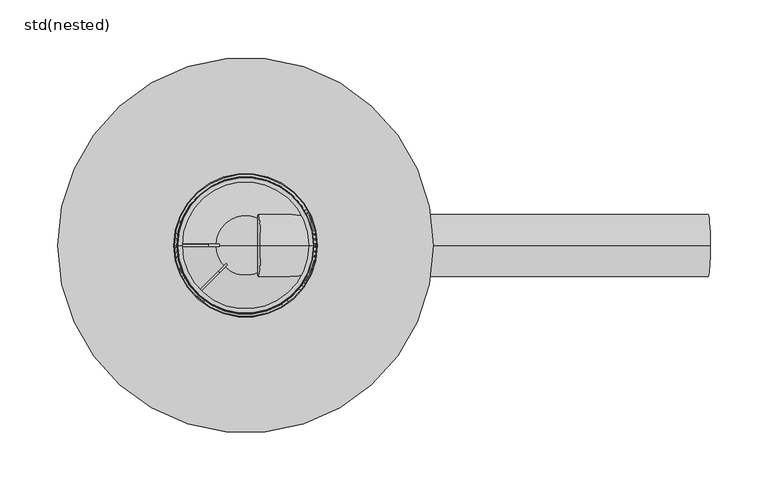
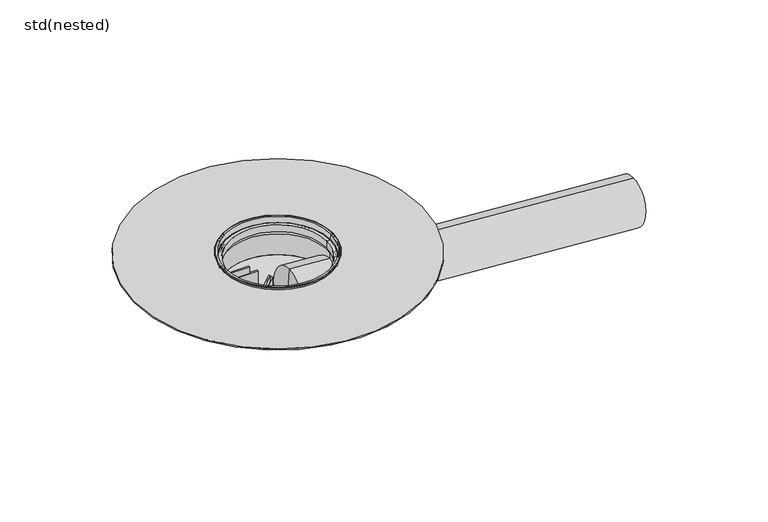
"""IFC4 building model written with IfcOpenShell, lengths in millimetres: sanitary terminal geometry, ZZZ_do not use_PF_ST_UN_balcony gully with adhesive flange and side inlet_ACO : std(nested)."""

from ifc_helpers import new_model, si_unit, point, frame, origin, origin_2d, place, context, project, spatial, polyline, circle_curve, trimmed, segment, composite_curve, outline, extrude, source, transform, mapped, element, save
from ifc_brep_helpers import plane_surface, cylinder_surface, revolved_surface, advanced_brep


def std_nested_a1d73519(model_context):
    return source(origin(), model_context, "Body", "SolidModel", [
        advanced_brep(
        [(12.8334452, 0.0, -25.8607459), (9.0665956, 0.0, -79.7292046), (10.9500204, 0.0, -52.7949752), (401.8834248, 0.0, -53.0657706), (398.1165752, 0.0, -106.9342294), (400.0, 0.0, -80.0)],
        [
            (0, 1, circle_curve(frame((10.9500204, 0.0, -52.7949752), z_axis=(-0.9975640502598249, 0.0, 0.0697564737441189), x_axis=(-0.06975647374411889, 0.0, -0.9975640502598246)), 27.0)),
            (1, 2),
            (2, 0),
            (1, 0, circle_curve(frame((10.9500204, 0.0, -52.7949752), z_axis=(-0.9975640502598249, 0.0, 0.0697564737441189), x_axis=(-0.06975647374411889, 0.0, -0.9975640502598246)), 27.0)),
            (3, 4, circle_curve(frame((400.0, 0.0, -80.0), z_axis=(-0.9975640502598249, 0.0, 0.0697564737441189), x_axis=(-0.06975647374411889, 0.0, -0.9975640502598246)), 27.0)),
            (4, 1),
            (0, 3),
            (4, 3, circle_curve(frame((400.0, 0.0, -80.0), z_axis=(-0.9975640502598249, 0.0, 0.0697564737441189), x_axis=(-0.06975647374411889, 0.0, -0.9975640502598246)), 27.0)),
            (5, 4),
            (3, 5),
        ],
        [
            plane_surface(frame((10.9500204, 0.0, -52.7949752), z_axis=(-0.9975640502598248, 0.0, 0.0697564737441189), x_axis=(-0.0697564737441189, 0.0, -0.9975640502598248))),
            cylinder_surface(frame((10.9500204, 0.0, -52.7949752), z_axis=(0.9975640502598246, 0.0, -0.06975647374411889), x_axis=(-0.06975647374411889, 0.0, -0.9975640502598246)), 27.0),
            plane_surface(frame((400.0, 0.0, -80.0), z_axis=(0.9975640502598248, 0.0, -0.0697564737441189), x_axis=(-0.0697564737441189, 0.0, -0.9975640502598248))),
        ],
        [
            (0, [[1, 2, 3]]),
            (0, [[4, -3, -2]]),
            (1, [[5, 6, -1, 7]]),
            (1, [[8, -7, -4, -6]]),
            (2, [[9, -5, 10]]),
            (2, [[-10, -8, -9]]),
        ],
    ),
        advanced_brep(
        [(59.5005382, 0.0, 0.0), (-59.5005382, 0.0, 0.0), (-59.0, 0.0, -7.0), (59.0, 0.0, -7.0), (61.5056448, 0.0, 0.0), (-61.5056448, 0.0, 0.0), (61.0051065, 0.0, -7.0), (-61.0051065, 0.0, -7.0), (61.0051065, 0.0, -9.0), (-61.0051065, 0.0, -9.0), (57.0, 0.0, -9.0), (-57.0, 0.0, -9.0), (57.0, 0.0, -13.0), (-57.0, 0.0, -13.0), (61.0051065, 0.0, -13.0), (-61.0051065, 0.0, -13.0), (61.0051065, 0.0, -45.0), (-61.0051065, 0.0, -45.0), (37.0, 0.0, -89.0), (-37.0, 0.0, -89.0), (59.0, 0.0, -45.0), (-59.0, 0.0, -45.0), (-36.0909091, 0.0, -87.0), (36.0909091, 0.0, -87.0), (59.0, 0.0, -15.0), (-58.9914973, 1.0016193, -15.0), (-58.9914973, 1.0016193, -40.0), (-59.0, 0.0, -40.0), (-58.9914973, -1.0016193, -40.0), (-58.9914973, -1.0016193, -15.0), (-42.2811502, -41.1497793, -15.0), (-42.2811502, -41.1497793, -40.0), (-41.1497793, -42.2811502, -40.0), (-41.1497793, -42.2811502, -15.0), (55.0, 0.0, -15.0), (-54.9908789, 1.0016193, -15.0), (-38.3210732, -39.4524441, -15.0), (-54.9908789, -1.0016193, -15.0), (-39.4524441, -38.3210732, -15.0), (55.0, 0.0, -7.0), (-55.0, 0.0, -7.0), (-55.0, 0.0, -15.0), (-58.4914247, 1.0016193, -40.0), (-58.5, 0.0, -40.0), (-58.4914247, -1.0016193, -40.0), (-41.927564, -40.7961932, -40.0), (-40.7961932, -41.927564, -40.0), (-23.0, -1.0016193, -15.0), (-23.0, 1.0016193, -15.0), (-15.6977705, -16.8291414, -15.0), (-16.8291414, -15.6977705, -15.0), (-23.0, 1.0016193, -30.0), (-58.4914247, 1.0016193, -30.0), (-58.4914247, -1.0016193, -30.0), (-23.0, -1.0016193, -30.0), (-23.0, 0.0, -30.0), (-16.8291414, -15.6977705, -30.0), (-41.927564, -40.7961932, -30.0), (-40.7961932, -41.927564, -30.0), (-15.6977705, -16.8291414, -30.0), (0.0, 0.0, -89.0), (0.0, 0.0, -87.0), (-58.5, 0.0, -30.0)],
        [
            (0, 1, circle_curve(frame((0.0, 0.0, 0.0), z_axis=(0.0, 0.0, 1.0), x_axis=(-1.0, 0.0, 0.0)), 59.5005382)),
            (1, 2),
            (2, 3, circle_curve(frame((0.0, 0.0, -7.0), z_axis=(0.0, 0.0, -1.0), x_axis=(-1.0, 0.0, 0.0)), 59.0)),
            (3, 0),
            (1, 0, circle_curve(frame((0.0, 0.0, 0.0), z_axis=(0.0, 0.0, 1.0), x_axis=(-1.0, 0.0, 0.0)), 59.5005382)),
            (3, 2, circle_curve(frame((0.0, 0.0, -7.0), z_axis=(0.0, 0.0, -1.0), x_axis=(-1.0, 0.0, 0.0)), 59.0)),
            (0, 4),
            (4, 5, circle_curve(frame((0.0, 0.0, 0.0), z_axis=(0.0, 0.0, 1.0), x_axis=(-1.0, 0.0, 0.0)), 61.5056448)),
            (5, 1),
            (5, 4, circle_curve(frame((0.0, 0.0, 0.0), z_axis=(0.0, 0.0, 1.0), x_axis=(-1.0, 0.0, 0.0)), 61.5056448)),
            (4, 6),
            (6, 7, circle_curve(frame((0.0, 0.0, -7.0), z_axis=(0.0, 0.0, 1.0), x_axis=(-1.0, 0.0, 0.0)), 61.0051065)),
            (7, 5),
            (7, 6, circle_curve(frame((0.0, 0.0, -7.0), z_axis=(0.0, 0.0, 1.0), x_axis=(-1.0, 0.0, 0.0)), 61.0051065)),
            (6, 8),
            (8, 9, circle_curve(frame((0.0, 0.0, -9.0), z_axis=(0.0, 0.0, 1.0), x_axis=(-1.0, 0.0, 0.0)), 61.0051065)),
            (9, 7),
            (9, 8, circle_curve(frame((0.0, 0.0, -9.0), z_axis=(0.0, 0.0, 1.0), x_axis=(-1.0, 0.0, 0.0)), 61.0051065)),
            (8, 10),
            (10, 11, circle_curve(frame((0.0, 0.0, -9.0), z_axis=(0.0, 0.0, 1.0), x_axis=(-1.0, 0.0, 0.0)), 57.0)),
            (11, 9),
            (11, 10, circle_curve(frame((0.0, 0.0, -9.0), z_axis=(0.0, 0.0, 1.0), x_axis=(-1.0, 0.0, 0.0)), 57.0)),
            (10, 12),
            (12, 13, circle_curve(frame((0.0, 0.0, -13.0), z_axis=(0.0, 0.0, 1.0), x_axis=(-1.0, 0.0, 0.0)), 57.0)),
            (13, 11),
            (13, 12, circle_curve(frame((0.0, 0.0, -13.0), z_axis=(0.0, 0.0, 1.0), x_axis=(-1.0, 0.0, 0.0)), 57.0)),
            (12, 14),
            (14, 15, circle_curve(frame((0.0, 0.0, -13.0), z_axis=(0.0, 0.0, 1.0), x_axis=(-1.0, 0.0, 0.0)), 61.0051065)),
            (15, 13),
            (15, 14, circle_curve(frame((0.0, 0.0, -13.0), z_axis=(0.0, 0.0, 1.0), x_axis=(-1.0, 0.0, 0.0)), 61.0051065)),
            (14, 16),
            (16, 17, circle_curve(frame((0.0, 0.0, -45.0), z_axis=(0.0, 0.0, 1.0), x_axis=(-1.0, 0.0, 0.0)), 61.0051065)),
            (17, 15),
            (17, 16, circle_curve(frame((0.0, 0.0, -45.0), z_axis=(0.0, 0.0, 1.0), x_axis=(-1.0, 0.0, 0.0)), 61.0051065)),
            (16, 18),
            (18, 19, circle_curve(frame((0.0, 0.0, -89.0), z_axis=(0.0, 0.0, 1.0), x_axis=(-1.0, 0.0, 0.0)), 37.0)),
            (19, 17),
            (19, 18, circle_curve(frame((0.0, 0.0, -89.0), z_axis=(0.0, 0.0, 1.0), x_axis=(-1.0, 0.0, 0.0)), 37.0)),
            (20, 21, circle_curve(frame((0.0, 0.0, -45.0), z_axis=(0.0, 0.0, 1.0), x_axis=(-1.0, 0.0, 0.0)), 59.0)),
            (21, 22),
            (22, 23, circle_curve(frame((0.0, 0.0, -87.0), z_axis=(0.0, 0.0, -1.0), x_axis=(-1.0, 0.0, 0.0)), 36.0909091)),
            (23, 20),
            (21, 20, circle_curve(frame((0.0, 0.0, -45.0), z_axis=(0.0, 0.0, 1.0), x_axis=(-1.0, 0.0, 0.0)), 59.0)),
            (23, 22, circle_curve(frame((0.0, 0.0, -87.0), z_axis=(0.0, 0.0, -1.0), x_axis=(-1.0, 0.0, 0.0)), 36.0909091)),
            (20, 24),
            (24, 25, circle_curve(frame((0.0, 0.0, -15.0), z_axis=(0.0, 0.0, 1.0), x_axis=(-1.0, 0.0, 0.0)), 59.0)),
            (25, 26),
            (26, 27, circle_curve(frame((0.0, 0.0, -40.0), z_axis=(0.0, 0.0, 1.0), x_axis=(-1.0, 0.0, 0.0)), 59.0)),
            (27, 21),
            (27, 28, circle_curve(frame((0.0, 0.0, -40.0), z_axis=(0.0, 0.0, 1.0), x_axis=(-1.0, 0.0, 0.0)), 59.0)),
            (28, 29),
            (29, 30, circle_curve(frame((0.0, 0.0, -15.0), z_axis=(0.0, 0.0, 1.0), x_axis=(-1.0, 0.0, 0.0)), 59.0)),
            (30, 31),
            (31, 32, circle_curve(frame((0.0, 0.0, -40.0), z_axis=(0.0, 0.0, 1.0), x_axis=(-1.0, 0.0, 0.0)), 59.0)),
            (32, 33),
            (33, 24, circle_curve(frame((0.0, 0.0, -15.0), z_axis=(0.0, 0.0, 1.0), x_axis=(-1.0, 0.0, 0.0)), 59.0)),
            (24, 34),
            (34, 35, circle_curve(frame((0.0, 0.0, -15.0), z_axis=(0.0, 0.0, 1.0), x_axis=(-1.0, 0.0, 0.0)), 55.0)),
            (35, 25),
            (33, 36),
            (36, 34, circle_curve(frame((0.0, 0.0, -15.0), z_axis=(0.0, 0.0, 1.0), x_axis=(-1.0, 0.0, 0.0)), 55.0)),
            (29, 37),
            (37, 38, circle_curve(frame((0.0, 0.0, -15.0), z_axis=(0.0, 0.0, 1.0), x_axis=(-1.0, 0.0, 0.0)), 55.0)),
            (38, 30),
            (39, 40, circle_curve(frame((0.0, 0.0, -7.0), z_axis=(0.0, 0.0, 1.0), x_axis=(-1.0, 0.0, 0.0)), 55.0)),
            (40, 41),
            (41, 35, circle_curve(frame((0.0, 0.0, -15.0), z_axis=(0.0, 0.0, -1.0), x_axis=(-1.0, 0.0, 0.0)), 55.0)),
            (34, 39),
            (40, 39, circle_curve(frame((0.0, 0.0, -7.0), z_axis=(0.0, 0.0, 1.0), x_axis=(-1.0, 0.0, 0.0)), 55.0)),
            (36, 38, circle_curve(frame((0.0, 0.0, -15.0), z_axis=(0.0, 0.0, -1.0), x_axis=(-1.0, 0.0, 0.0)), 55.0)),
            (37, 41, circle_curve(frame((0.0, 0.0, -15.0), z_axis=(0.0, 0.0, -1.0), x_axis=(-1.0, 0.0, 0.0)), 55.0)),
            (2, 40),
            (39, 3),
            (26, 42),
            (42, 43, circle_curve(frame((0.0, 0.0, -40.0), z_axis=(0.0, 0.0, 1.0), x_axis=(1.0, 0.0, 0.0)), 58.5)),
            (43, 44, circle_curve(frame((0.0, 0.0, -40.0), z_axis=(0.0, 0.0, 1.0), x_axis=(1.0, 0.0, 0.0)), 58.5)),
            (44, 28),
            (31, 45),
            (45, 46, circle_curve(frame((0.0, 0.0, -40.0), z_axis=(0.0, 0.0, 1.0), x_axis=(1.0, 0.0, 0.0)), 58.5)),
            (46, 32),
            (47, 48),
            (48, 35),
            (37, 47),
            (49, 50),
            (50, 38),
            (36, 49),
            (48, 51),
            (51, 52),
            (52, 42),
            (44, 53),
            (53, 54),
            (54, 47),
            (54, 55),
            (55, 51),
            (50, 56),
            (56, 57),
            (57, 45),
            (46, 58),
            (58, 59),
            (59, 49),
            (59, 56),
            (18, 60),
            (60, 19),
            (22, 61),
            (61, 23),
            (62, 43),
            (52, 62, circle_curve(frame((0.0, 0.0, -30.0), z_axis=(0.0, 0.0, 1.0), x_axis=(1.0, 0.0, 0.0)), 58.5)),
            (62, 53, circle_curve(frame((0.0, 0.0, -30.0), z_axis=(0.0, 0.0, 1.0), x_axis=(1.0, 0.0, 0.0)), 58.5)),
            (57, 58, circle_curve(frame((0.0, 0.0, -30.0), z_axis=(0.0, 0.0, 1.0), x_axis=(1.0, 0.0, 0.0)), 58.5)),
            (55, 62),
        ],
        [
            revolved_surface(polyline([(-59.0, 0.0, -7.0), (-59.5005382, 0.0, 0.0)]), (0.0, 0.0, 0.0), (0.0, 0.0, -1.0)),
            plane_surface(frame((0.0, 0.0, 0.0), z_axis=(0.0, 0.0, 1.0), x_axis=(-1.0, 0.0, 0.0))),
            revolved_surface(polyline([(-61.5056448, 0.0, 0.0), (-61.0051065, 0.0, -7.0)]), (0.0, 0.0, 0.0), (0.0, 0.0, -1.0)),
            cylinder_surface(frame((0.0, 0.0, 0.0), z_axis=(0.0, 0.0, -1.0), x_axis=(-1.0, 0.0, 0.0)), 61.0051065),
            plane_surface(frame((0.0, 0.0, -9.0), z_axis=(0.0, 0.0, -1.0), x_axis=(-1.0, 0.0, 0.0))),
            cylinder_surface(frame((0.0, 0.0, 0.0), z_axis=(0.0, 0.0, -1.0), x_axis=(-1.0, 0.0, 0.0)), 57.0),
            plane_surface(frame((0.0, 0.0, -13.0), z_axis=(0.0, 0.0, 1.0), x_axis=(-1.0, 0.0, 0.0))),
            revolved_surface(polyline([(-61.0051065, 0.0, -45.0), (-37.0, 0.0, -89.0)]), (0.0, 0.0, 0.0), (0.0, 0.0, -1.0)),
            revolved_surface(polyline([(-36.0909091, 0.0, -87.0), (-59.0, 0.0, -45.0)]), (0.0, 0.0, 0.0), (0.0, 0.0, -1.0)),
            revolved_surface(polyline([(-59.0, 0.0, -45.0), (-59.0, 0.0, -15.0)]), (0.0, 0.0, 0.0), (0.0, 0.0, -1.0)),
            plane_surface(frame((0.0, 0.0, -15.0), z_axis=(0.0, 0.0, -1.0), x_axis=(-1.0, 0.0, 0.0))),
            revolved_surface(polyline([(-55.0, 0.0, -15.0), (-55.0, 0.0, -7.0)]), (0.0, 0.0, 0.0), (0.0, 0.0, -1.0)),
            plane_surface(frame((0.0, 0.0, -7.0), z_axis=(0.0, 0.0, 1.0), x_axis=(-1.0, 0.0, 0.0))),
            plane_surface(frame((-59.4942457, 1.0016193, -40.0), z_axis=(0.0, 0.0, -1.0), x_axis=(1.0, 0.0, 0.0))),
            plane_surface(frame((-59.4942457, 1.0016193, -15.0), z_axis=(0.0, 0.0, 1.0), x_axis=(-1.0, 0.0, 0.0))),
            plane_surface(frame((-23.0, 1.0016193, -15.0), z_axis=(0.0, 1.0, 0.0), x_axis=(0.0, 0.0, -1.0))),
            plane_surface(frame((-60.0, -1.0016193, -15.0), z_axis=(0.0, -1.0, 0.0), x_axis=(0.0, 0.0, -1.0))),
            plane_surface(frame((-23.0, -1.0016193, -15.0), z_axis=(1.0, 0.0, 0.0), x_axis=(0.0, 0.0, -1.0))),
            plane_surface(frame((-16.8291414, -15.6977705, -15.0), z_axis=(-0.7071067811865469, 0.7071067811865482, 0.0), x_axis=(0.0, 0.0, -1.0))),
            plane_surface(frame((-41.8607214, -42.9920923, -15.0), z_axis=(0.7071067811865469, -0.7071067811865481, 0.0), x_axis=(0.0, 0.0, -1.0))),
            plane_surface(frame((-15.6977705, -16.8291414, -15.0), z_axis=(0.7071067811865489, 0.7071067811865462, 0.0), x_axis=(0.0, 0.0, -1.0))),
            plane_surface(frame((0.0, 0.0, -89.0), z_axis=(0.0, 0.0, -1.0), x_axis=(-1.0, 0.0, 0.0))),
            plane_surface(frame((0.0, 0.0, -87.0), z_axis=(0.0, 0.0, 1.0), x_axis=(-1.0, 0.0, 0.0))),
            revolved_surface(polyline([(58.5, 0.0, -30.0), (58.5, 0.0, -40.0)]), (0.0, 0.0, -64.5), (0.0, 0.0, 1.0)),
            plane_surface(frame((0.0, 0.0, -30.0), z_axis=(0.0, 0.0, -1.0), x_axis=(1.0, 0.0, 0.0))),
        ],
        [
            (0, [[1, 2, 3, 4]]),
            (0, [[-2, 5, -4, 6]]),
            (1, [[-1, 7, 8, 9]]),
            (1, [[-5, -9, 10, -7]]),
            (2, [[-8, 11, 12, 13]]),
            (2, [[-10, -13, 14, -11]]),
            (3, [[-12, 15, 16, 17]]),
            (3, [[-14, -17, 18, -15]]),
            (4, [[-16, 19, 20, 21]]),
            (4, [[-18, -21, 22, -19]]),
            (5, [[-20, 23, 24, 25]]),
            (5, [[-22, -25, 26, -23]]),
            (6, [[-24, 27, 28, 29]]),
            (6, [[-26, -29, 30, -27]]),
            (3, [[-28, 31, 32, 33]]),
            (3, [[-30, -33, 34, -31]]),
            (7, [[-32, 35, 36, 37]]),
            (7, [[-34, -37, 38, -35]]),
            (8, [[39, 40, 41, 42]]),
            (8, [[-40, 43, -42, 44]]),
            (9, [[-39, 45, 46, 47, 48, 49]]),
            (9, [[-43, -49, 50, 51, 52, 53, 54, 55, 56, -45]]),
            (10, [[57, 58, 59, -46]]),
            (10, [[-57, -56, 60, 61]]),
            (10, [[-52, 62, 63, 64]]),
            (11, [[65, 66, 67, -58, 68]]),
            (11, [[-66, 69, -68, -61, 70, -63, 71]]),
            (12, [[-3, 72, -65, 73]]),
            (12, [[-6, -73, -69, -72]]),
            (13, [[-48, 74, 75, 76, 77, -50]]),
            (13, [[-54, 78, 79, 80]]),
            (14, [[81, 82, -67, -71, 83]]),
            (14, [[84, 85, -70, 86]]),
            (15, [[-82, 87, 88, 89, -74, -47, -59]]),
            (16, [[-83, -62, -51, -77, 90, 91, 92]]),
            (17, [[-81, -92, 93, 94, -87]]),
            (18, [[-85, 95, 96, 97, -78, -53, -64]]),
            (19, [[-86, -60, -55, -80, 98, 99, 100]]),
            (20, [[-84, -100, 101, -95]]),
            (21, [[-36, 102, 103]]),
            (21, [[-38, -103, -102]]),
            (22, [[-41, 104, 105]]),
            (22, [[-44, -105, -104]]),
            (23, [[106, -75, -89, 107]]),
            (23, [[-106, 108, -90, -76]]),
            (23, [[109, -98, -79, -97]]),
            (24, [[110, -107, -88, -94]]),
            (24, [[-109, -96, -101, -99]]),
            (24, [[-110, -93, -91, -108]]),
        ],
    ),
        advanced_brep(
        [(60.1480246, 0.0, -7.0), (-60.1480246, 0.0, -7.0), (-62.1480246, 0.0, 0.0), (62.1480246, 0.0, 0.0), (60.1480246, 0.0, -45.0), (-60.1480246, 0.0, -45.0), (27.0, 0.0, -66.0), (-27.0, 0.0, -66.0), (58.5, 0.0, -45.0), (-58.5, 0.0, -45.0), (-25.9583193, 0.0, -64.5), (25.9583193, 0.0, -64.5), (58.5, 0.0, -30.0), (58.5, 0.0, -7.0), (-58.5, 0.0, -7.0), (-58.5, 0.0, -30.0), (60.5, 0.0, 0.0), (-60.5, 0.0, 0.0), (0.0, 0.0, -66.0), (0.0, 0.0, -64.5)],
        [
            (0, 1, circle_curve(frame((0.0, 0.0, -7.0), z_axis=(0.0, 0.0, 1.0), x_axis=(-1.0, 0.0, 0.0)), 60.1480246)),
            (1, 2),
            (2, 3, circle_curve(frame((0.0, 0.0, 0.0), z_axis=(0.0, 0.0, -1.0), x_axis=(-1.0, 0.0, 0.0)), 62.1480246)),
            (3, 0),
            (1, 0, circle_curve(frame((0.0, 0.0, -7.0), z_axis=(0.0, 0.0, 1.0), x_axis=(-1.0, 0.0, 0.0)), 60.1480246)),
            (3, 2, circle_curve(frame((0.0, 0.0, 0.0), z_axis=(0.0, 0.0, -1.0), x_axis=(-1.0, 0.0, 0.0)), 62.1480246)),
            (0, 4),
            (4, 5, circle_curve(frame((0.0, 0.0, -45.0), z_axis=(0.0, 0.0, 1.0), x_axis=(-1.0, 0.0, 0.0)), 60.1480246)),
            (5, 1),
            (5, 4, circle_curve(frame((0.0, 0.0, -45.0), z_axis=(0.0, 0.0, 1.0), x_axis=(-1.0, 0.0, 0.0)), 60.1480246)),
            (4, 6),
            (6, 7, circle_curve(frame((0.0, 0.0, -66.0), z_axis=(0.0, 0.0, 1.0), x_axis=(-1.0, 0.0, 0.0)), 27.0)),
            (7, 5),
            (7, 6, circle_curve(frame((0.0, 0.0, -66.0), z_axis=(0.0, 0.0, 1.0), x_axis=(-1.0, 0.0, 0.0)), 27.0)),
            (8, 9, circle_curve(frame((0.0, 0.0, -45.0), z_axis=(0.0, 0.0, 1.0), x_axis=(-1.0, 0.0, 0.0)), 58.5)),
            (9, 10),
            (10, 11, circle_curve(frame((0.0, 0.0, -64.5), z_axis=(0.0, 0.0, -1.0), x_axis=(-1.0, 0.0, 0.0)), 25.9583193)),
            (11, 8),
            (9, 8, circle_curve(frame((0.0, 0.0, -45.0), z_axis=(0.0, 0.0, 1.0), x_axis=(-1.0, 0.0, 0.0)), 58.5)),
            (11, 10, circle_curve(frame((0.0, 0.0, -64.5), z_axis=(0.0, 0.0, -1.0), x_axis=(-1.0, 0.0, 0.0)), 25.9583193)),
            (8, 12),
            (12, 13),
            (13, 14, circle_curve(frame((0.0, 0.0, -7.0), z_axis=(0.0, 0.0, 1.0), x_axis=(-1.0, 0.0, 0.0)), 58.5)),
            (14, 15),
            (15, 9),
            (14, 13, circle_curve(frame((0.0, 0.0, -7.0), z_axis=(0.0, 0.0, 1.0), x_axis=(-1.0, 0.0, 0.0)), 58.5)),
            (13, 16),
            (16, 17, circle_curve(frame((0.0, 0.0, 0.0), z_axis=(0.0, 0.0, 1.0), x_axis=(-1.0, 0.0, 0.0)), 60.5)),
            (17, 14),
            (17, 16, circle_curve(frame((0.0, 0.0, 0.0), z_axis=(0.0, 0.0, 1.0), x_axis=(-1.0, 0.0, 0.0)), 60.5)),
            (2, 17),
            (16, 3),
            (6, 18),
            (18, 7),
            (10, 19),
            (19, 11),
        ],
        [
            revolved_surface(polyline([(-62.1480246, 0.0, 0.0), (-60.1480246, 0.0, -7.0)]), (0.0, 0.0, 0.0), (0.0, 0.0, -1.0)),
            cylinder_surface(frame((0.0, 0.0, 0.0), z_axis=(0.0, 0.0, -1.0), x_axis=(-1.0, 0.0, 0.0)), 60.1480246),
            revolved_surface(polyline([(-60.1480246, 0.0, -45.0), (-27.0, 0.0, -66.0)]), (0.0, 0.0, 0.0), (0.0, 0.0, -1.0)),
            revolved_surface(polyline([(-25.9583193, 0.0, -64.5), (-58.5, 0.0, -45.0)]), (0.0, 0.0, 0.0), (0.0, 0.0, -1.0)),
            revolved_surface(polyline([(-58.5, 0.0, -45.0), (-58.5, 0.0, -7.0)]), (0.0, 0.0, 0.0), (0.0, 0.0, -1.0)),
            revolved_surface(polyline([(-58.5, 0.0, -7.0), (-60.5, 0.0, 0.0)]), (0.0, 0.0, 0.0), (0.0, 0.0, -1.0)),
            plane_surface(frame((0.0, 0.0, 0.0), z_axis=(0.0, 0.0, 1.0), x_axis=(-1.0, 0.0, 0.0))),
            plane_surface(frame((0.0, 0.0, -66.0), z_axis=(0.0, 0.0, -1.0), x_axis=(-1.0, 0.0, 0.0))),
            plane_surface(frame((0.0, 0.0, -64.5), z_axis=(0.0, 0.0, 1.0), x_axis=(-1.0, 0.0, 0.0))),
        ],
        [
            (0, [[1, 2, 3, 4]]),
            (0, [[-2, 5, -4, 6]]),
            (1, [[-1, 7, 8, 9]]),
            (1, [[-5, -9, 10, -7]]),
            (2, [[-8, 11, 12, 13]]),
            (2, [[-10, -13, 14, -11]]),
            (3, [[15, 16, 17, 18]]),
            (3, [[-16, 19, -18, 20]]),
            (4, [[-15, 21, 22, 23, 24, 25]]),
            (4, [[-19, -25, -24, 26, -22, -21]]),
            (5, [[-23, 27, 28, 29]]),
            (5, [[-26, -29, 30, -27]]),
            (6, [[-3, 31, -28, 32]]),
            (6, [[-6, -32, -30, -31]]),
            (7, [[-12, 33, 34]]),
            (7, [[-14, -34, -33]]),
            (8, [[-17, 35, 36]]),
            (8, [[-20, -36, -35]]),
        ],
    ),
        extrude(outline(composite_curve([segment(trimmed(circle_curve(origin_2d(), 162.5), [point((-162.5, 0.0))], [point((162.5, 0.0))], False, "CARTESIAN"), True, "CONTINUOUS"), segment(trimmed(circle_curve(origin_2d(), 162.5), [point((162.5, 0.0))], [point((-162.5, 0.0))], False, "CARTESIAN"), True, "CONTINUOUS")], self_intersect=False), holes=[composite_curve([segment(trimmed(circle_curve(origin_2d(), 60.0), [point((-60.0, 0.0))], [point((60.0, 0.0))], True, "CARTESIAN"), True, "CONTINUOUS"), segment(trimmed(circle_curve(origin_2d(), 60.0), [point((60.0, 0.0))], [point((-60.0, 0.0))], True, "CARTESIAN"), True, "CONTINUOUS")], self_intersect=False)]), frame((0.0, 0.0, -4.5), z_axis=(0.0, 0.0, 1.0), x_axis=(1.0, 0.0, 0.0)), (0.0, 0.0, 1.0), 1.5),
        extrude(outline(composite_curve([segment(trimmed(circle_curve(origin_2d(), 58.5), [point((-58.4945297, -0.8))], [point((-41.927564, -40.7961932))], False, "CARTESIAN"), True, "CONTINUOUS"), segment(polyline([(-41.927564, -40.7961932), (-23.5466558, -22.415285), (-22.415285, -23.5466558), (-39.6647135, -40.7960844)]), True, "CONTINUOUS"), segment(trimmed(circle_curve(origin_2d(), 56.9), [point((-39.6647135, -40.7960844))], [point((-56.8943758, 0.8))], True, "CARTESIAN"), True, "CONTINUOUS"), segment(polyline([(-56.8943758, 0.8), (-32.5, 0.8), (-32.5, -0.8), (-58.4945297, -0.8)]), True, "CONTINUOUS")], self_intersect=False)), frame((0.0, 0.0, -19.0), z_axis=(0.0, 0.0, 1.0), x_axis=(1.0, 0.0, 0.0)), (0.0, 0.0, 1.0), 12.0),
    ])


if __name__ == "__main__":
    model = new_model("IFC4")
    model_context = context("Model", 3, world=origin())
    ifc_project = project(units=[si_unit("LENGTHUNIT", "METRE", prefix="MILLI")], contexts=[model_context])
    site = spatial("IfcSite", under=ifc_project)
    building = spatial("IfcBuilding", under=site)
    placement = place(None, origin())
    std_nested_shape = std_nested_a1d73519(model_context)
    element("IfcSanitaryTerminal", 1, ObjectType="ZZZ_do not use_PF_ST_UN_balcony gully with adhesive flange and side inlet_ACO : std(nested)", at=placement, inside=building, context=model_context, shape_type="MappedRepresentation", body=[
        mapped(std_nested_shape, transform((0.0, 0.0, 0.0), x_axis=(1.0, 0.0, 0.0), y_axis=(0.0, 1.0, 0.0), z_axis=(0.0, 0.0, 1.0))),
    ])
    save(model, "model.ifc")
